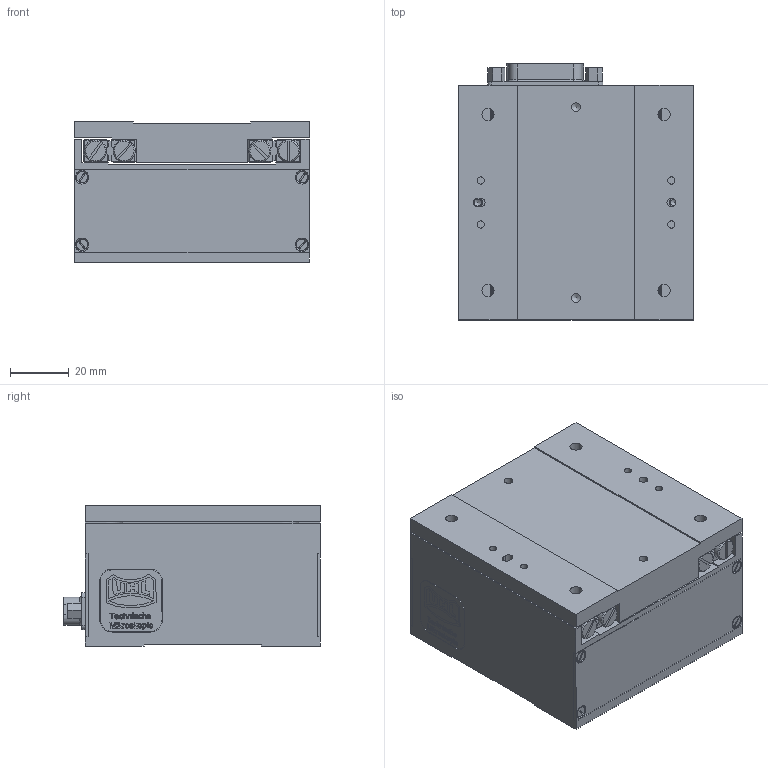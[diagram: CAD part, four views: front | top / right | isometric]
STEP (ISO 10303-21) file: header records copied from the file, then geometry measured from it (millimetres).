
FILE_DESCRIPTION(/* description */ (''),/* implementation_level */ '2;1');
FILE_NAME(/* name */ 'H:\Inventor\Katalog\3D-CAD-Modelle\STP neu\PT4-Kxxx-CAD.stp',/* time_stamp */ '2024-01-22T07:45:51+01:00',/* author */ ('KON3'),/* organization */ (''),/* preprocessor_version */ 'ST-DEVELOPER v18',/* originating_system */ 'Autodesk Inventor 2020',/* authorisation */ '');
FILE_SCHEMA (('AUTOMOTIVE_DESIGN { 1 0 10303 214 3 1 1 }'));
Length unit declared in the file: millimetre
Products named in the file (3): PT4-Kxxx-CAD; PT4-Kxxx_unten; PT4-Kxxx_oben
Assembly tree (2 placements, depth 2):
  PT4-Kxxx-CAD
    PT4-Kxxx_unten
    PT4-Kxxx_oben
Bounding box: 80.01 x 87.3 x 48 mm (x, y, z)
Volume: 296090.5 mm3; surface area: 74725.7 mm2
Topology: 30 solids, 30 shells, 1151 faces, 3008 edges, 2028 vertices
Faces by surface type: plane 631, cylinder 236, bspline 194, cone 84, torus 6
Full cylindrical faces by diameter (mm): 1 x30, 1.567 x8, 2 x8, 2.156 x2, 2.4 x8, 2.459 x24, 3 x7, 3.2 x4, 3.242 x20, 3.4 x4, 3.5 x8, 4.134 x4, 6 x16, 7.5 x8, 8 x4
Entity records: 38688 total; most frequent: CARTESIAN_POINT 9628, ORIENTED_EDGE 5944, DIRECTION 5329, EDGE_CURVE 2972, VERTEX_POINT 2028, AXIS2_PLACEMENT_3D 1813, LINE 1703, VECTOR 1703
